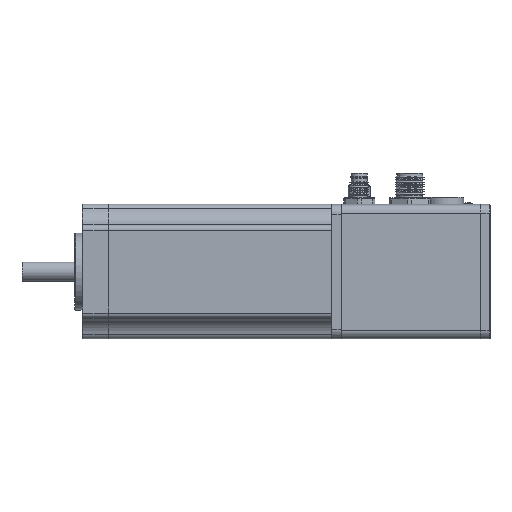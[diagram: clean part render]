
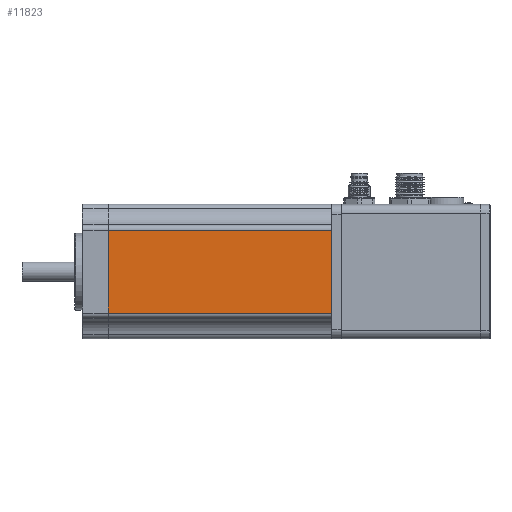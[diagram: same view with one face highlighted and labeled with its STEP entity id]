
A CAD part, front view. The second image highlights one B-rep face of the part: STEP entity #11823.
In plain terms, the highlighted planar face has unit normal (0, -1, 0).
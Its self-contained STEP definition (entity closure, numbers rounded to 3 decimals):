
#11823=ADVANCED_FACE('',(#22578),#22579,.T.);
#22578=FACE_OUTER_BOUND('',#36103,.T.);
#22579=PLANE('',#36104);
#36103=EDGE_LOOP('',(#55249,#55250,#55251,#55252));
#36104=AXIS2_PLACEMENT_3D('',#55253,#55254,#55255);
#55249=ORIENTED_EDGE('',*,*,#59745,.T.);
#55250=ORIENTED_EDGE('',*,*,#59746,.F.);
#55251=ORIENTED_EDGE('',*,*,#59747,.T.);
#55252=ORIENTED_EDGE('',*,*,#59742,.T.);
#55253=CARTESIAN_POINT('',(11.0,-28.0,0.));
#55254=DIRECTION('',(0.0,-1.0,0.0));
#55255=DIRECTION('',(0.0,0.0,-1.0));
#59742=EDGE_CURVE('',#65451,#65449,#65452,.T.);
#59745=EDGE_CURVE('',#65449,#65455,#65456,.T.);
#59746=EDGE_CURVE('',#65457,#65455,#65458,.T.);
#59747=EDGE_CURVE('',#65457,#65451,#65459,.T.);
#65449=VERTEX_POINT('',#72654);
#65451=VERTEX_POINT('',#72656);
#65452=LINE('',#72657,#72658);
#65455=VERTEX_POINT('',#72661);
#65456=LINE('',#72662,#72663);
#65457=VERTEX_POINT('',#72664);
#65458=LINE('',#72665,#72666);
#65459=LINE('',#72667,#72668);
#72654=CARTESIAN_POINT('',(104.0,-28.0,-17.273));
#72656=CARTESIAN_POINT('',(11.0,-28.0,-17.273));
#72657=CARTESIAN_POINT('',(11.0,-28.0,-17.273));
#72658=VECTOR('',#77686,1.0);
#72661=CARTESIAN_POINT('',(104.0,-28.,17.273));
#72662=CARTESIAN_POINT('',(104.0,-28.0,17.273));
#72663=VECTOR('',#77690,1.0);
#72664=CARTESIAN_POINT('',(11.0,-28.,17.273));
#72665=CARTESIAN_POINT('',(11.0,-28.,17.273));
#72666=VECTOR('',#77691,1.0);
#72667=CARTESIAN_POINT('',(11.0,-28.0,17.273));
#72668=VECTOR('',#77692,1.0);
#77686=DIRECTION('',(1.0,0.0,0.0));
#77690=DIRECTION('',(-0.0,0.0,1.0));
#77691=DIRECTION('',(1.0,0.0,0.0));
#77692=DIRECTION('',(0.0,0.0,-1.0));
